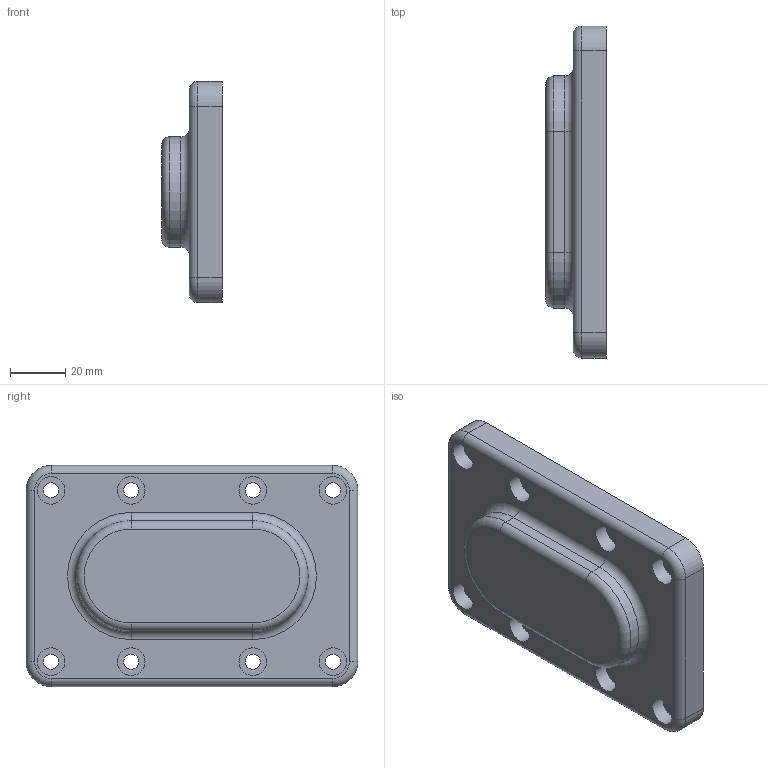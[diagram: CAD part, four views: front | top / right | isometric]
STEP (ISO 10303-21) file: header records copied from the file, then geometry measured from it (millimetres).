
FILE_DESCRIPTION(/* description */ (''),/* implementation_level */ '2;1');
FILE_NAME(/* name */ '',/* time_stamp */ '2026-09-29T15:28:37+09:00',/* author */ ('jhkim'),/* organization */ (''),/* preprocessor_version */ 'ST-DEVELOPER v20.1',/* originating_system */ 'Autodesk Inventor 2027',/* authorisation */ '');
FILE_SCHEMA (('AUTOMOTIVE_DESIGN { 1 0 10303 214 3 1 1 }'));
Length unit declared in the file: millimetre
Products named in the file (1): 커버
Bounding box: 22 x 120 x 80 mm (x, y, z)
Volume: 124440.1 mm3; surface area: 29008.3 mm2
Topology: 1 solids, 1 shells, 59 faces, 122 edges, 76 vertices
Faces by surface type: cylinder 32, plane 19, torus 8
Full cylindrical faces by diameter (mm): 5.5 x8, 10 x8, 25 x2
Entity records: 1655 total; most frequent: DIRECTION 314, CARTESIAN_POINT 258, ORIENTED_EDGE 244, AXIS2_PLACEMENT_3D 132, EDGE_CURVE 122, EDGE_LOOP 86, VERTEX_POINT 76, CIRCLE 72
